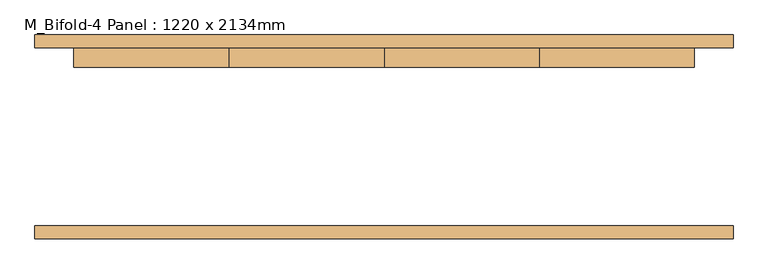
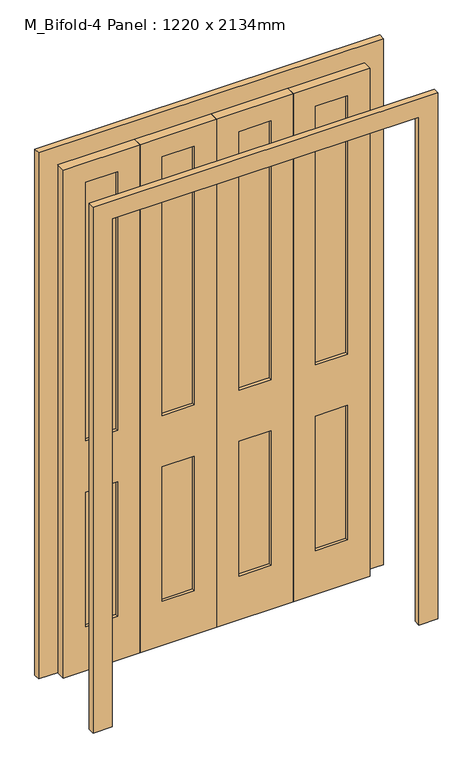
"""IFC4 building model written with IfcOpenShell, lengths in millimetres: door geometry, M_Bifold-4 Panel : 1220 x 2134mm."""

from ifc_helpers import new_model, si_unit, frame, origin, place, context, project, spatial, polyline, outline, extrude, source, transform, mapped, element, save


def m_bifold_4_panel_1220_x_2134mm_46e1cad3(model_context):
    return source(origin(), model_context, "Body", "SweptSolid", [
        extrude(outline(polyline([(393.9, 162.3), (521.1, 162.3), (521.1, 149.6), (393.9, 149.6), (393.9, 162.3)])), frame((0.0, 0.0, 965.2), z_axis=(0.0, 0.0, 1.0), x_axis=(1.0, 0.0, 0.0)), (0.0, 0.0, 1.0), 1086.25),
        extrude(outline(polyline([(393.9, 162.3), (521.1, 162.3), (521.1, 149.6), (393.9, 149.6), (393.9, 162.3)])), frame((0.0, 0.0, 184.15), z_axis=(0.0, 0.0, 1.0), x_axis=(1.0, 0.0, 0.0)), (0.0, 0.0, 1.0), 565.15),
        extrude(outline(polyline([(88.9, 162.3), (216.1, 162.3), (216.1, 149.6), (88.9, 149.6), (88.9, 162.3)])), frame((0.0, 0.0, 965.2), z_axis=(0.0, 0.0, 1.0), x_axis=(1.0, 0.0, 0.0)), (0.0, 0.0, 1.0), 1086.25),
        extrude(outline(polyline([(88.9, 162.3), (216.1, 162.3), (216.1, 149.6), (88.9, 149.6), (88.9, 162.3)])), frame((0.0, 0.0, 184.15), z_axis=(0.0, 0.0, 1.0), x_axis=(1.0, 0.0, 0.0)), (0.0, 0.0, 1.0), 565.15),
        extrude(outline(polyline([(-216.1, 162.3), (-88.9, 162.3), (-88.9, 149.6), (-216.1, 149.6), (-216.1, 162.3)])), frame((0.0, 0.0, 184.15), z_axis=(0.0, 0.0, 1.0), x_axis=(1.0, 0.0, 0.0)), (0.0, 0.0, 1.0), 565.15),
        extrude(outline(polyline([(-216.1, 162.3), (-88.9, 162.3), (-88.9, 149.6), (-216.1, 149.6), (-216.1, 162.3)])), frame((0.0, 0.0, 965.2), z_axis=(0.0, 0.0, 1.0), x_axis=(1.0, 0.0, 0.0)), (0.0, 0.0, 1.0), 1086.25),
        extrude(outline(polyline([(-521.1, 162.3), (-393.9, 162.3), (-393.9, 149.6), (-521.1, 149.6), (-521.1, 162.3)])), frame((0.0, 0.0, 965.2), z_axis=(0.0, 0.0, 1.0), x_axis=(1.0, 0.0, 0.0)), (0.0, 0.0, 1.0), 1086.25),
        extrude(outline(polyline([(-521.1, 162.3), (-393.9, 162.3), (-393.9, 149.6), (-521.1, 149.6), (-521.1, 162.3)])), frame((0.0, 0.0, 184.15), z_axis=(0.0, 0.0, 1.0), x_axis=(1.0, 0.0, 0.0)), (0.0, 0.0, 1.0), 565.15),
        extrude(outline(polyline([(0.0, 686.0), (2210.0, 686.0), (2210.0, -686.0), (0.0, -686.0), (0.0, -610.0), (2134.0, -610.0), (2134.0, 610.0), (0.0, 610.0), (0.0, 686.0)])), frame((0.0, -200.4, 0.0), z_axis=(0.0, 1.0, 0.0), x_axis=(0.0, 0.0, 1.0)), (0.0, 0.0, 1.0), 25.4),
        extrude(outline(polyline([(0.0, 686.0), (2210.0, 686.0), (2210.0, -686.0), (0.0, -686.0), (0.0, -610.0), (2134.0, -610.0), (2134.0, 610.0), (0.0, 610.0), (0.0, 686.0)])), frame((0.0, 175.0, 0.0), z_axis=(0.0, 1.0, 0.0), x_axis=(0.0, 0.0, 1.0)), (0.0, 0.0, 1.0), 25.4),
        extrude(outline(polyline([(0.0, -610.0), (0.0, -305.0), (2134.0, -305.0), (2134.0, -610.0), (0.0, -610.0)]), holes=[polyline([(2051.45, -521.1), (2051.45, -393.9), (965.2, -393.9), (965.2, -521.1), (2051.45, -521.1)]), polyline([(749.3, -521.1), (749.3, -393.9), (184.15, -393.9), (184.15, -521.1), (749.3, -521.1)])]), frame((0.0, 136.9, 0.0), z_axis=(0.0, 1.0, 0.0), x_axis=(0.0, 0.0, 1.0)), (0.0, 0.0, 1.0), 38.1),
        extrude(outline(polyline([(0.0, -305.0), (0.0, 0.0), (2134.0, 0.0), (2134.0, -305.0), (0.0, -305.0)]), holes=[polyline([(2051.45, -216.1), (2051.45, -88.9), (965.2, -88.9), (965.2, -216.1), (2051.45, -216.1)]), polyline([(749.3, -216.1), (749.3, -88.9), (184.15, -88.9), (184.15, -216.1), (749.3, -216.1)])]), frame((0.0, 136.9, 0.0), z_axis=(0.0, 1.0, 0.0), x_axis=(0.0, 0.0, 1.0)), (0.0, 0.0, 1.0), 38.1),
        extrude(outline(polyline([(0.0, 0.0), (0.0, 305.0), (2134.0, 305.0), (2134.0, 0.0), (0.0, 0.0)]), holes=[polyline([(2051.45, 88.9), (2051.45, 216.1), (965.2, 216.1), (965.2, 88.9), (2051.45, 88.9)]), polyline([(749.3, 88.9), (749.3, 216.1), (184.15, 216.1), (184.15, 88.9), (749.3, 88.9)])]), frame((0.0, 136.9, 0.0), z_axis=(0.0, 1.0, 0.0), x_axis=(0.0, 0.0, 1.0)), (0.0, 0.0, 1.0), 38.1),
        extrude(outline(polyline([(0.0, 305.0), (0.0, 610.0), (2134.0, 610.0), (2134.0, 305.0), (0.0, 305.0)]), holes=[polyline([(2051.45, 393.9), (2051.45, 521.1), (965.2, 521.1), (965.2, 393.9), (2051.45, 393.9)]), polyline([(749.3, 393.9), (749.3, 521.1), (184.15, 521.1), (184.15, 393.9), (749.3, 393.9)])]), frame((0.0, 136.9, 0.0), z_axis=(0.0, 1.0, 0.0), x_axis=(0.0, 0.0, 1.0)), (0.0, 0.0, 1.0), 38.1),
    ])


if __name__ == "__main__":
    model = new_model("IFC4")
    model_context = context("Model", 3, world=origin())
    ifc_project = project(units=[si_unit("LENGTHUNIT", "METRE", prefix="MILLI")], contexts=[model_context])
    site = spatial("IfcSite", under=ifc_project)
    building = spatial("IfcBuilding", under=site)
    placement = place(None, origin())
    m_bifold_4_panel_1220_x_2134mm_shape = m_bifold_4_panel_1220_x_2134mm_46e1cad3(model_context)
    element("IfcDoor", 1, ObjectType="M_Bifold-4 Panel : 1220 x 2134mm", at=placement, inside=building, context=model_context, shape_type="MappedRepresentation", body=[
        mapped(m_bifold_4_panel_1220_x_2134mm_shape, transform((0.0, 0.0, 0.0), x_axis=(1.0, 0.0, 0.0), y_axis=(0.0, 1.0, 0.0), z_axis=(0.0, 0.0, 1.0))),
    ])
    save(model, "model.ifc")
